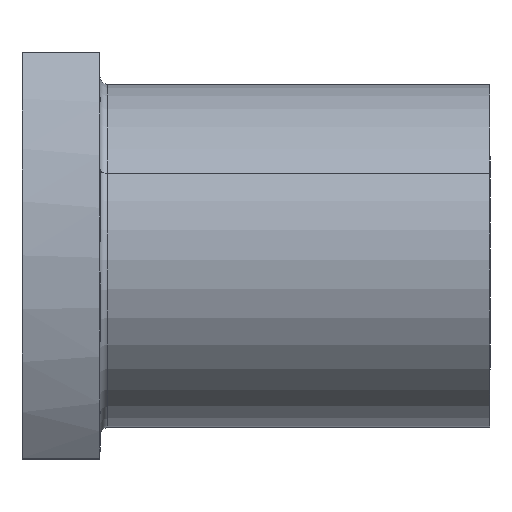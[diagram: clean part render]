
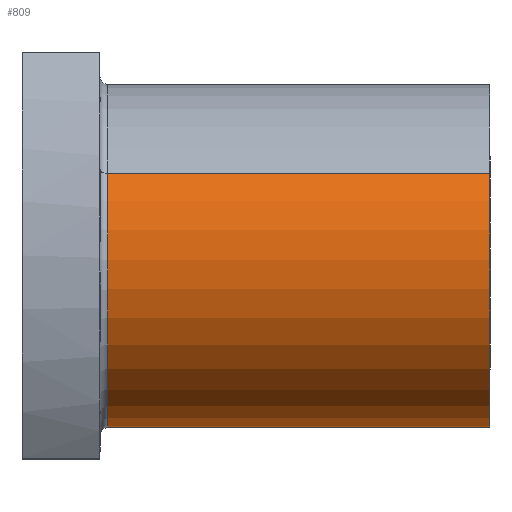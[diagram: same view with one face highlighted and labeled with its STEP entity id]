
A CAD part, top view. The second image highlights one B-rep face of the part: STEP entity #809.
In plain terms, the highlighted cylindrical face has radius 11 mm (diameter 22 mm), a partial arc.
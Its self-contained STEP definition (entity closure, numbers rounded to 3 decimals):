
#561=CARTESIAN_POINT('Vertex',(5.5,5.274,9.653)) ;
#568=CARTESIAN_POINT('Vertex',(5.5,-5.274,-9.653)) ;
#588=CARTESIAN_POINT('Axis2P3D Location',(5.5,0.,0.)) ;
#767=CARTESIAN_POINT('Line Origine',(66.171,5.274,9.653)) ;
#771=CARTESIAN_POINT('Vertex',(30.,5.274,9.653)) ;
#778=CARTESIAN_POINT('Vertex',(30.,-5.274,-9.653)) ;
#781=CARTESIAN_POINT('Line Origine',(66.171,-5.274,-9.653)) ;
#793=CARTESIAN_POINT('Axis2P3D Location',(66.171,0.,0.)) ;
#798=CARTESIAN_POINT('Axis2P3D Location',(30.,0.,0.)) ;
#589=DIRECTION('Axis2P3D Direction',(-1.,0.,-0.)) ;
#768=DIRECTION('Vector Direction',(-1.,0.,0.)) ;
#782=DIRECTION('Vector Direction',(-1.,0.,0.)) ;
#794=DIRECTION('Axis2P3D Direction',(-1.,0.,0.)) ;
#795=DIRECTION('Axis2P3D XDirection',(0.,-0.479,-0.878)) ;
#799=DIRECTION('Axis2P3D Direction',(-1.,0.,0.)) ;
#590=AXIS2_PLACEMENT_3D('Circle Axis2P3D',#588,#589,$) ;
#796=AXIS2_PLACEMENT_3D('Cylinder Axis2P3D',#793,#794,#795) ;
#800=AXIS2_PLACEMENT_3D('Circle Axis2P3D',#798,#799,$) ;
#804=ORIENTED_EDGE('',*,*,#785,.F.) ;
#805=ORIENTED_EDGE('',*,*,#802,.F.) ;
#806=ORIENTED_EDGE('',*,*,#773,.T.) ;
#807=ORIENTED_EDGE('',*,*,#592,.T.) ;
#769=VECTOR('Line Direction',#768,1.) ;
#783=VECTOR('Line Direction',#782,1.) ;
#809=ADVANCED_FACE('ATM14',(#808),#797,.T.) ;
#591=CIRCLE('generated circle',#590,11.) ;
#801=CIRCLE('generated circle',#800,11.) ;
#797=CYLINDRICAL_SURFACE('generated cylinder',#796,11.) ;
#592=EDGE_CURVE('',#562,#569,#591,.F.) ;
#773=EDGE_CURVE('',#772,#562,#770,.T.) ;
#785=EDGE_CURVE('',#779,#569,#784,.T.) ;
#802=EDGE_CURVE('',#772,#779,#801,.F.) ;
#803=EDGE_LOOP('',(#804,#805,#806,#807)) ;
#808=FACE_OUTER_BOUND('',#803,.T.) ;
#770=LINE('Line',#767,#769) ;
#784=LINE('Line',#781,#783) ;
#562=VERTEX_POINT('',#561) ;
#569=VERTEX_POINT('',#568) ;
#772=VERTEX_POINT('',#771) ;
#779=VERTEX_POINT('',#778) ;
